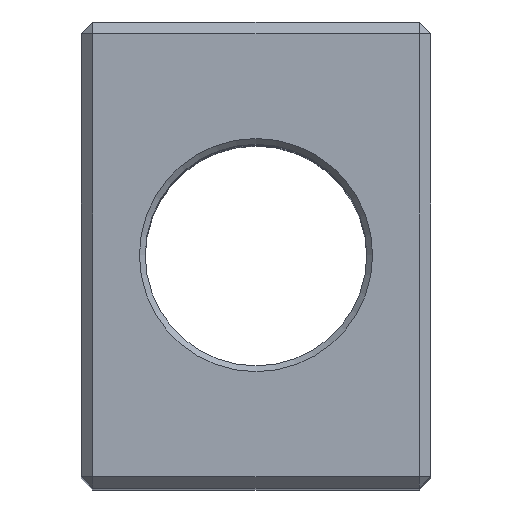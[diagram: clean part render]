
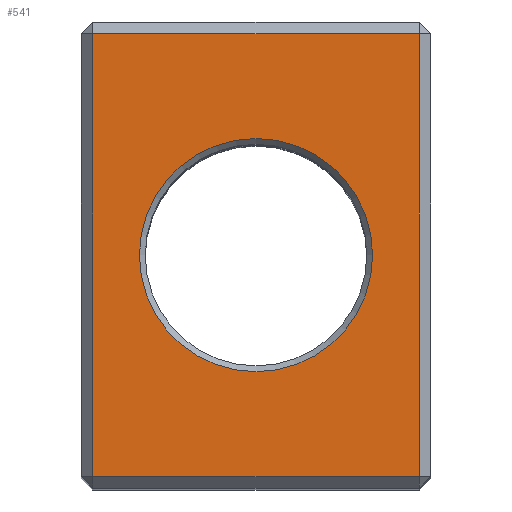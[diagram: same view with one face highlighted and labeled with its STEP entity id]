
A CAD part, top view. The second image highlights one B-rep face of the part: STEP entity #541.
In plain terms, the highlighted planar face has unit normal (0, 0, 1).
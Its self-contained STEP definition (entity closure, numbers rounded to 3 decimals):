
#17=PLANE('',#608);
#46=FACE_BOUND('',#106,.T.);
#65=FACE_OUTER_BOUND('',#105,.T.);
#105=EDGE_LOOP('',(#419,#420,#421,#422));
#106=EDGE_LOOP('',(#423));
#151=LINE('',#937,#208);
#152=LINE('',#939,#209);
#153=LINE('',#941,#210);
#154=LINE('',#942,#211);
#208=VECTOR('',#691,10.);
#209=VECTOR('',#692,10.);
#210=VECTOR('',#693,10.);
#211=VECTOR('',#694,10.);
#260=CIRCLE('',#607,10.);
#285=VERTEX_POINT('',#931);
#286=VERTEX_POINT('',#935);
#287=VERTEX_POINT('',#936);
#288=VERTEX_POINT('',#938);
#289=VERTEX_POINT('',#940);
#330=EDGE_CURVE('',#285,#285,#260,.T.);
#332=EDGE_CURVE('',#286,#287,#151,.T.);
#333=EDGE_CURVE('',#288,#286,#152,.T.);
#334=EDGE_CURVE('',#289,#288,#153,.T.);
#335=EDGE_CURVE('',#287,#289,#154,.T.);
#419=ORIENTED_EDGE('',*,*,#332,.F.);
#420=ORIENTED_EDGE('',*,*,#333,.F.);
#421=ORIENTED_EDGE('',*,*,#334,.F.);
#422=ORIENTED_EDGE('',*,*,#335,.F.);
#423=ORIENTED_EDGE('',*,*,#330,.F.);
#541=ADVANCED_FACE('',(#65,#46),#17,.T.);
#607=AXIS2_PLACEMENT_3D('',#932,#686,#687);
#608=AXIS2_PLACEMENT_3D('',#934,#689,#690);
#686=DIRECTION('center_axis',(0.,0.,1.));
#687=DIRECTION('ref_axis',(-1.,0.,0.));
#689=DIRECTION('center_axis',(0.,0.,1.));
#690=DIRECTION('ref_axis',(1.,0.,0.));
#691=DIRECTION('',(1.,0.,0.));
#692=DIRECTION('',(0.,1.,0.));
#693=DIRECTION('',(-1.,0.,0.));
#694=DIRECTION('',(0.,-1.,0.));
#931=CARTESIAN_POINT('',(10.,0.,45.));
#932=CARTESIAN_POINT('Origin',(0.,0.,45.));
#934=CARTESIAN_POINT('Origin',(0.,0.,45.));
#935=CARTESIAN_POINT('',(-14.,19.,45.));
#936=CARTESIAN_POINT('',(14.,19.,45.));
#937=CARTESIAN_POINT('',(7.5,19.,45.));
#938=CARTESIAN_POINT('',(-14.,-19.,45.));
#939=CARTESIAN_POINT('',(-14.,10.,45.));
#940=CARTESIAN_POINT('',(14.,-19.,45.));
#941=CARTESIAN_POINT('',(-7.5,-19.,45.));
#942=CARTESIAN_POINT('',(14.,-10.,45.));
